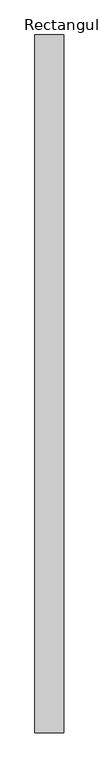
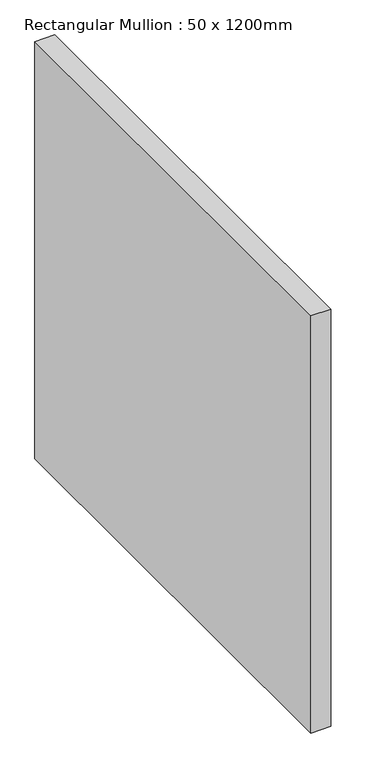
"""IFC4 building model written with IfcOpenShell, lengths in millimetres: member geometry, Rectangular Mullion : 50 x 1200mm."""

from ifc_helpers import new_model, si_unit, frame, origin, place, context, project, spatial, polyline, outline, extrude, source, transform, mapped, element, save


def rectangular_mullion_50_x_1200mm_c53331d8(model_context):
    return source(origin(), model_context, "Body", "SweptSolid", [
        extrude(outline(polyline([(25.0, 1120.0), (25.0, -80.0), (-25.0, -80.0), (-25.0, 1120.0), (25.0, 1120.0)])), frame((0.0, 0.0, -1107.1428571), z_axis=(0.0, 0.0, 1.0), x_axis=(1.0, 0.0, 0.0)), (0.0, 0.0, 1.0), 1107.1428571),
    ])


if __name__ == "__main__":
    model = new_model("IFC4")
    model_context = context("Model", 3, world=origin())
    ifc_project = project(units=[si_unit("LENGTHUNIT", "METRE", prefix="MILLI")], contexts=[model_context])
    site = spatial("IfcSite", under=ifc_project)
    building = spatial("IfcBuilding", under=site)
    placement = place(None, origin())
    rectangular_mullion_50_x_1200mm_shape = rectangular_mullion_50_x_1200mm_c53331d8(model_context)
    element("IfcMember", 1, ObjectType="Rectangular Mullion : 50 x 1200mm", at=placement, inside=building, context=model_context, shape_type="MappedRepresentation", body=[
        mapped(rectangular_mullion_50_x_1200mm_shape, transform((0.0, 0.0, 0.0), x_axis=(1.0, 0.0, 0.0), y_axis=(0.0, 1.0, 0.0), z_axis=(0.0, 0.0, 1.0))),
    ])
    save(model, "model.ifc")
